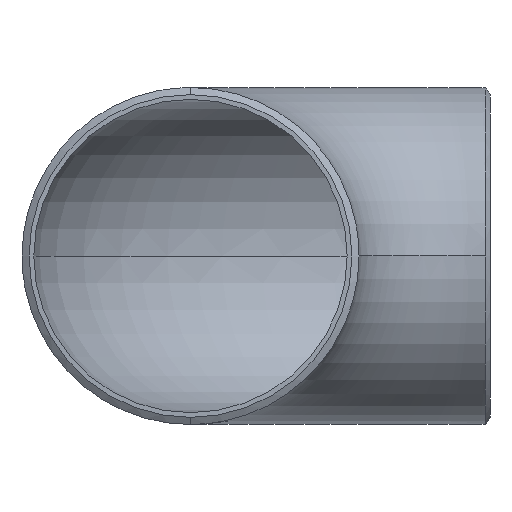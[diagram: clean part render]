
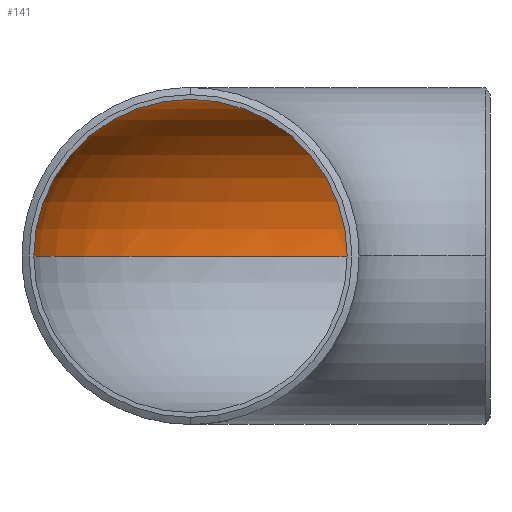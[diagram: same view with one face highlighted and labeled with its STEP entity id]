
A CAD part, front view. The second image highlights one B-rep face of the part: STEP entity #141.
In plain terms, the highlighted toroidal (fillet/blend) face has major radius 101.6 mm and minor radius 53.15 mm.
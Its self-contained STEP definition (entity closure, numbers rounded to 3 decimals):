
#47 = CIRCLE ( 'NONE', #56, 53.15 ) ;
#56 = AXIS2_PLACEMENT_3D ( 'NONE', #335, #432, #538 ) ;
#64 = ORIENTED_EDGE ( 'NONE', *, *, #204, .T. ) ;
#128 = DIRECTION ( 'NONE',  ( -1., 0., 0. ) ) ;
#132 = ORIENTED_EDGE ( 'NONE', *, *, #260, .T. ) ;
#134 = CIRCLE ( 'NONE', #288, 48.45 ) ;
#141 = ADVANCED_FACE ( 'NONE', ( #234 ), #502, .F. ) ;
#149 = DIRECTION ( 'NONE',  ( 0., 0., -1. ) ) ;
#153 = DIRECTION ( 'NONE',  ( -1., 0., 0. ) ) ;
#156 = CARTESIAN_POINT ( 'NONE',  ( 101.6, 0., 0. ) ) ;
#172 = ORIENTED_EDGE ( 'NONE', *, *, #279, .F. ) ;
#175 = DIRECTION ( 'NONE',  ( 0., 0., -1. ) ) ;
#182 = VERTEX_POINT ( 'NONE', #481 ) ;
#185 = VERTEX_POINT ( 'NONE', #529 ) ;
#204 = EDGE_CURVE ( 'NONE', #400, #591, #47, .T. ) ;
#234 = FACE_OUTER_BOUND ( 'NONE', #546, .T. ) ;
#245 = CIRCLE ( 'NONE', #373, 53.15 ) ;
#260 = EDGE_CURVE ( 'NONE', #591, #182, #395, .T. ) ;
#268 = CARTESIAN_POINT ( 'NONE',  ( 53.15, 0., 0. ) ) ;
#279 = EDGE_CURVE ( 'NONE', #400, #185, #134, .T. ) ;
#288 = AXIS2_PLACEMENT_3D ( 'NONE', #447, #175, #499 ) ;
#328 = CARTESIAN_POINT ( 'NONE',  ( -53.15, 0., 0. ) ) ;
#332 = CARTESIAN_POINT ( 'NONE',  ( 101.6, 0., 0. ) ) ;
#335 = CARTESIAN_POINT ( 'NONE',  ( 0., 0., 0. ) ) ;
#373 = AXIS2_PLACEMENT_3D ( 'NONE', #559, #128, #552 ) ;
#395 = CIRCLE ( 'NONE', #416, 154.75 ) ;
#400 = VERTEX_POINT ( 'NONE', #268 ) ;
#416 = AXIS2_PLACEMENT_3D ( 'NONE', #156, #149, #437 ) ;
#419 = EDGE_CURVE ( 'NONE', #185, #182, #245, .T. ) ;
#432 = DIRECTION ( 'NONE',  ( 0., -1., 0. ) ) ;
#437 = DIRECTION ( 'NONE',  ( -1., 0., 0. ) ) ;
#447 = CARTESIAN_POINT ( 'NONE',  ( 101.6, 0., 0. ) ) ;
#450 = AXIS2_PLACEMENT_3D ( 'NONE', #332, #573, #153 ) ;
#453 = ORIENTED_EDGE ( 'NONE', *, *, #419, .F. ) ;
#481 = CARTESIAN_POINT ( 'NONE',  ( 101.6, 154.75, 0. ) ) ;
#499 = DIRECTION ( 'NONE',  ( -1., 0., 0. ) ) ;
#502 = TOROIDAL_SURFACE ( 'NONE', #450, 101.6, 53.15 ) ;
#529 = CARTESIAN_POINT ( 'NONE',  ( 101.6, 48.45, 0. ) ) ;
#538 = DIRECTION ( 'NONE',  ( 0., 0., 1. ) ) ;
#546 = EDGE_LOOP ( 'NONE', ( #64, #132, #453, #172 ) ) ;
#552 = DIRECTION ( 'NONE',  ( 0., 0., 1. ) ) ;
#559 = CARTESIAN_POINT ( 'NONE',  ( 101.6, 101.6, 0. ) ) ;
#573 = DIRECTION ( 'NONE',  ( 0., 0., -1. ) ) ;
#591 = VERTEX_POINT ( 'NONE', #328 ) ;
